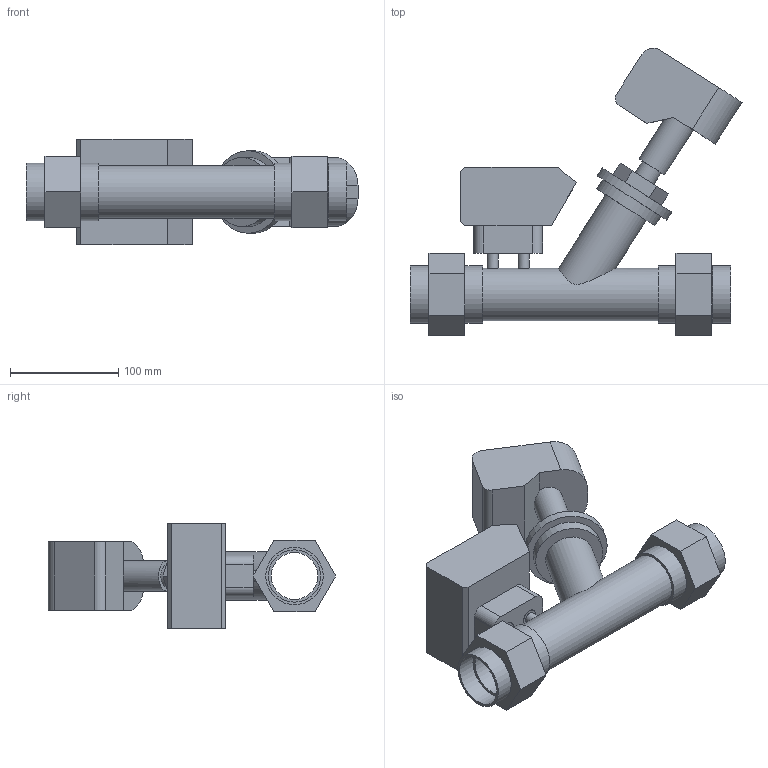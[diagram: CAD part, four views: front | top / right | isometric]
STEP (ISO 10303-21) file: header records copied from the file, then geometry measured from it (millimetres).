
FILE_DESCRIPTION(/* description */ ('VIC VALVE CONTROL TA SERIES 7SM (FPT)','CAx-IF Rec.Pracs.---Representation and Presentation of Product Manufacturing Information (PMI)---4.0---2014-10-13'),/* implementation_level */ '2;1');
FILE_NAME(/* name */ 'C:\Users\kkamble\Documents\7SM\STEP\Victaulic_IPS_Valve Control_TA Series 7SM (FPT)\Victaulic_IPS_Valve Control_TA Series 7SM (FPT)_1.5 (40).stp',/* time_stamp */ '2021-08-27T13:16:20+06:00',/* author */ ('cps_temp'),/* organization */ ('Victaulic'),/* preprocessor_version */ 'ST-DEVELOPER v17.2',/* originating_system */ 'Autodesk Inventor 2019',/* authorisation */ '');
FILE_SCHEMA (('AP242_MANAGED_MODEL_BASED_3D_ENGINEERING_MIM_LF { 1 0 10303 442 1 1 4 }'));
Length unit declared in the file: inch
Products named in the file (1): 7SM-01.5
Bounding box: 306.25 x 265.04 x 97.03 mm (x, y, z)
Volume: 1381452.7 mm3; surface area: 199677.2 mm2
Topology: 1 solids, 1 shells, 84 faces, 212 edges, 149 vertices
Faces by surface type: plane 57, cylinder 25, cone 2
Full cylindrical faces by diameter (mm): 10.16 x2, 15.24 x2, 20.32 x1, 27.94 x1, 43.18 x1, 44.45 x1, 48.26 x3, 53.01 x4, 63.5 x1, 76.2 x1
Entity records: 2950 total; most frequent: CARTESIAN_POINT 601, DIRECTION 475, ORIENTED_EDGE 424, EDGE_CURVE 212, AXIS2_PLACEMENT_3D 171, VERTEX_POINT 149, LINE 133, VECTOR 133
